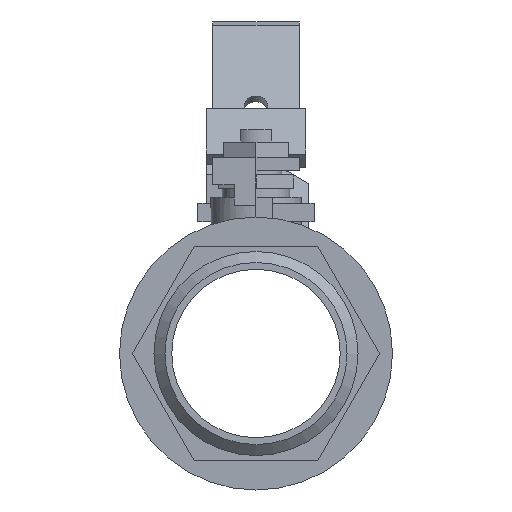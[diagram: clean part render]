
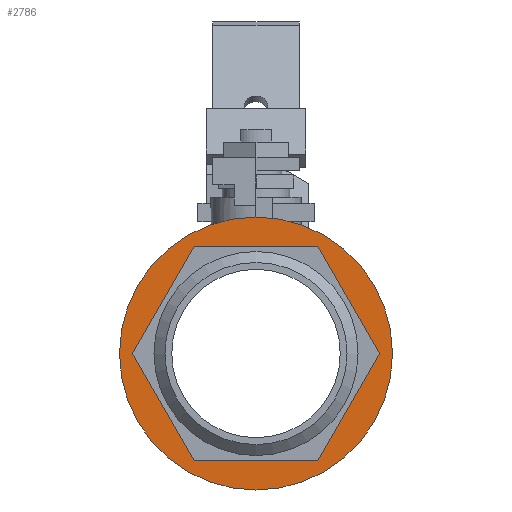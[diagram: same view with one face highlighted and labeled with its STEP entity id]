
A CAD part, left-side view. The second image highlights one B-rep face of the part: STEP entity #2786.
In plain terms, the highlighted planar face has unit normal (-1, 0, 0).
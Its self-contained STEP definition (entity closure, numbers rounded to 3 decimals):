
#2718 = CYLINDRICAL_SURFACE('',#2719,1.727);
#2719 = AXIS2_PLACEMENT_3D('',#2720,#2721,#2722);
#2720 = CARTESIAN_POINT('',(2.519,0.,
    0.));
#2721 = DIRECTION('',(1.,0.,0.));
#2722 = DIRECTION('',(0.,-1.,0.));
#2738 = VERTEX_POINT('',#2739);
#2739 = CARTESIAN_POINT('',(2.519,-1.727,0.));
#2759 = EDGE_CURVE('',#2738,#2738,#2760,.T.);
#2760 = SURFACE_CURVE('',#2761,(#2766,#2773),.PCURVE_S1.);
#2761 = CIRCLE('',#2762,1.727);
#2762 = AXIS2_PLACEMENT_3D('',#2763,#2764,#2765);
#2763 = CARTESIAN_POINT('',(2.519,0.,
    0.));
#2764 = DIRECTION('',(-1.,0.,0.));
#2765 = DIRECTION('',(0.,-1.,0.));
#2766 = PCURVE('',#2718,#2767);
#2767 = DEFINITIONAL_REPRESENTATION('',(#2768),#2772);
#2768 = LINE('',#2769,#2770);
#2769 = CARTESIAN_POINT('',(6.283,0.));
#2770 = VECTOR('',#2771,1.);
#2771 = DIRECTION('',(-1.,0.));
#2772 = ( GEOMETRIC_REPRESENTATION_CONTEXT(2) 
PARAMETRIC_REPRESENTATION_CONTEXT() REPRESENTATION_CONTEXT('2D SPACE',''
  ) );
#2773 = PCURVE('',#2774,#2779);
#2774 = PLANE('',#2775);
#2775 = AXIS2_PLACEMENT_3D('',#2776,#2777,#2778);
#2776 = CARTESIAN_POINT('',(2.519,0.,
    0.));
#2777 = DIRECTION('',(-1.,0.,0.));
#2778 = DIRECTION('',(0.,0.,1.));
#2779 = DEFINITIONAL_REPRESENTATION('',(#2780),#2784);
#2780 = CIRCLE('',#2781,1.727);
#2781 = AXIS2_PLACEMENT_2D('',#2782,#2783);
#2782 = CARTESIAN_POINT('',(0.,0.));
#2783 = DIRECTION('',(0.,-1.));
#2784 = ( GEOMETRIC_REPRESENTATION_CONTEXT(2) 
PARAMETRIC_REPRESENTATION_CONTEXT() REPRESENTATION_CONTEXT('2D SPACE',''
  ) );
#2786 = ADVANCED_FACE('',(#2787,#2957),#2774,.T.);
#2787 = FACE_BOUND('',#2788,.T.);
#2788 = EDGE_LOOP('',(#2789,#2819,#2847,#2875,#2903,#2931));
#2789 = ORIENTED_EDGE('',*,*,#2790,.T.);
#2790 = EDGE_CURVE('',#2791,#2793,#2795,.T.);
#2791 = VERTEX_POINT('',#2792);
#2792 = CARTESIAN_POINT('',(2.519,-0.782,1.355));
#2793 = VERTEX_POINT('',#2794);
#2794 = CARTESIAN_POINT('',(2.519,-1.565,0.));
#2795 = SURFACE_CURVE('',#2796,(#2800,#2807),.PCURVE_S1.);
#2796 = LINE('',#2797,#2798);
#2797 = CARTESIAN_POINT('',(2.519,-1.173,0.678));
#2798 = VECTOR('',#2799,1.);
#2799 = DIRECTION('',(0.,-0.5,-0.866));
#2800 = PCURVE('',#2774,#2801);
#2801 = DEFINITIONAL_REPRESENTATION('',(#2802),#2806);
#2802 = LINE('',#2803,#2804);
#2803 = CARTESIAN_POINT('',(0.678,-1.173));
#2804 = VECTOR('',#2805,1.);
#2805 = DIRECTION('',(-0.866,-0.5));
#2806 = ( GEOMETRIC_REPRESENTATION_CONTEXT(2) 
PARAMETRIC_REPRESENTATION_CONTEXT() REPRESENTATION_CONTEXT('2D SPACE',''
  ) );
#2807 = PCURVE('',#2808,#2813);
#2808 = PLANE('',#2809);
#2809 = AXIS2_PLACEMENT_3D('',#2810,#2811,#2812);
#2810 = CARTESIAN_POINT('',(2.049,-1.173,0.678));
#2811 = DIRECTION('',(0.,-0.866,0.5));
#2812 = DIRECTION('',(0.,-0.5,-0.866));
#2813 = DEFINITIONAL_REPRESENTATION('',(#2814),#2818);
#2814 = LINE('',#2815,#2816);
#2815 = CARTESIAN_POINT('',(0.,0.47));
#2816 = VECTOR('',#2817,1.);
#2817 = DIRECTION('',(1.,0.));
#2818 = ( GEOMETRIC_REPRESENTATION_CONTEXT(2) 
PARAMETRIC_REPRESENTATION_CONTEXT() REPRESENTATION_CONTEXT('2D SPACE',''
  ) );
#2819 = ORIENTED_EDGE('',*,*,#2820,.T.);
#2820 = EDGE_CURVE('',#2793,#2821,#2823,.T.);
#2821 = VERTEX_POINT('',#2822);
#2822 = CARTESIAN_POINT('',(2.519,-0.782,-1.355));
#2823 = SURFACE_CURVE('',#2824,(#2828,#2835),.PCURVE_S1.);
#2824 = LINE('',#2825,#2826);
#2825 = CARTESIAN_POINT('',(2.519,-1.173,-0.678));
#2826 = VECTOR('',#2827,1.);
#2827 = DIRECTION('',(0.,0.5,-0.866));
#2828 = PCURVE('',#2774,#2829);
#2829 = DEFINITIONAL_REPRESENTATION('',(#2830),#2834);
#2830 = LINE('',#2831,#2832);
#2831 = CARTESIAN_POINT('',(-0.678,-1.173));
#2832 = VECTOR('',#2833,1.);
#2833 = DIRECTION('',(-0.866,0.5));
#2834 = ( GEOMETRIC_REPRESENTATION_CONTEXT(2) 
PARAMETRIC_REPRESENTATION_CONTEXT() REPRESENTATION_CONTEXT('2D SPACE',''
  ) );
#2835 = PCURVE('',#2836,#2841);
#2836 = PLANE('',#2837);
#2837 = AXIS2_PLACEMENT_3D('',#2838,#2839,#2840);
#2838 = CARTESIAN_POINT('',(2.049,-1.173,-0.678));
#2839 = DIRECTION('',(0.,-0.866,-0.5));
#2840 = DIRECTION('',(0.,0.5,-0.866));
#2841 = DEFINITIONAL_REPRESENTATION('',(#2842),#2846);
#2842 = LINE('',#2843,#2844);
#2843 = CARTESIAN_POINT('',(0.,0.47));
#2844 = VECTOR('',#2845,1.);
#2845 = DIRECTION('',(1.,0.));
#2846 = ( GEOMETRIC_REPRESENTATION_CONTEXT(2) 
PARAMETRIC_REPRESENTATION_CONTEXT() REPRESENTATION_CONTEXT('2D SPACE',''
  ) );
#2847 = ORIENTED_EDGE('',*,*,#2848,.T.);
#2848 = EDGE_CURVE('',#2821,#2849,#2851,.T.);
#2849 = VERTEX_POINT('',#2850);
#2850 = CARTESIAN_POINT('',(2.519,0.782,-1.355));
#2851 = SURFACE_CURVE('',#2852,(#2856,#2863),.PCURVE_S1.);
#2852 = LINE('',#2853,#2854);
#2853 = CARTESIAN_POINT('',(2.519,0.,-1.355));
#2854 = VECTOR('',#2855,1.);
#2855 = DIRECTION('',(0.,1.,0.));
#2856 = PCURVE('',#2774,#2857);
#2857 = DEFINITIONAL_REPRESENTATION('',(#2858),#2862);
#2858 = LINE('',#2859,#2860);
#2859 = CARTESIAN_POINT('',(-1.355,0.));
#2860 = VECTOR('',#2861,1.);
#2861 = DIRECTION('',(0.,1.));
#2862 = ( GEOMETRIC_REPRESENTATION_CONTEXT(2) 
PARAMETRIC_REPRESENTATION_CONTEXT() REPRESENTATION_CONTEXT('2D SPACE',''
  ) );
#2863 = PCURVE('',#2864,#2869);
#2864 = PLANE('',#2865);
#2865 = AXIS2_PLACEMENT_3D('',#2866,#2867,#2868);
#2866 = CARTESIAN_POINT('',(2.049,0.,-1.355));
#2867 = DIRECTION('',(0.,0.,-1.));
#2868 = DIRECTION('',(0.,1.,0.));
#2869 = DEFINITIONAL_REPRESENTATION('',(#2870),#2874);
#2870 = LINE('',#2871,#2872);
#2871 = CARTESIAN_POINT('',(0.,0.47));
#2872 = VECTOR('',#2873,1.);
#2873 = DIRECTION('',(1.,0.));
#2874 = ( GEOMETRIC_REPRESENTATION_CONTEXT(2) 
PARAMETRIC_REPRESENTATION_CONTEXT() REPRESENTATION_CONTEXT('2D SPACE',''
  ) );
#2875 = ORIENTED_EDGE('',*,*,#2876,.T.);
#2876 = EDGE_CURVE('',#2849,#2877,#2879,.T.);
#2877 = VERTEX_POINT('',#2878);
#2878 = CARTESIAN_POINT('',(2.519,1.565,0.));
#2879 = SURFACE_CURVE('',#2880,(#2884,#2891),.PCURVE_S1.);
#2880 = LINE('',#2881,#2882);
#2881 = CARTESIAN_POINT('',(2.519,1.173,-0.678));
#2882 = VECTOR('',#2883,1.);
#2883 = DIRECTION('',(0.,0.5,0.866));
#2884 = PCURVE('',#2774,#2885);
#2885 = DEFINITIONAL_REPRESENTATION('',(#2886),#2890);
#2886 = LINE('',#2887,#2888);
#2887 = CARTESIAN_POINT('',(-0.678,1.173));
#2888 = VECTOR('',#2889,1.);
#2889 = DIRECTION('',(0.866,0.5));
#2890 = ( GEOMETRIC_REPRESENTATION_CONTEXT(2) 
PARAMETRIC_REPRESENTATION_CONTEXT() REPRESENTATION_CONTEXT('2D SPACE',''
  ) );
#2891 = PCURVE('',#2892,#2897);
#2892 = PLANE('',#2893);
#2893 = AXIS2_PLACEMENT_3D('',#2894,#2895,#2896);
#2894 = CARTESIAN_POINT('',(2.049,1.173,-0.678));
#2895 = DIRECTION('',(0.,0.866,-0.5));
#2896 = DIRECTION('',(0.,0.5,0.866));
#2897 = DEFINITIONAL_REPRESENTATION('',(#2898),#2902);
#2898 = LINE('',#2899,#2900);
#2899 = CARTESIAN_POINT('',(0.,0.47));
#2900 = VECTOR('',#2901,1.);
#2901 = DIRECTION('',(1.,0.));
#2902 = ( GEOMETRIC_REPRESENTATION_CONTEXT(2) 
PARAMETRIC_REPRESENTATION_CONTEXT() REPRESENTATION_CONTEXT('2D SPACE',''
  ) );
#2903 = ORIENTED_EDGE('',*,*,#2904,.T.);
#2904 = EDGE_CURVE('',#2877,#2905,#2907,.T.);
#2905 = VERTEX_POINT('',#2906);
#2906 = CARTESIAN_POINT('',(2.519,0.782,1.355));
#2907 = SURFACE_CURVE('',#2908,(#2912,#2919),.PCURVE_S1.);
#2908 = LINE('',#2909,#2910);
#2909 = CARTESIAN_POINT('',(2.519,1.173,0.678));
#2910 = VECTOR('',#2911,1.);
#2911 = DIRECTION('',(0.,-0.5,0.866));
#2912 = PCURVE('',#2774,#2913);
#2913 = DEFINITIONAL_REPRESENTATION('',(#2914),#2918);
#2914 = LINE('',#2915,#2916);
#2915 = CARTESIAN_POINT('',(0.678,1.173));
#2916 = VECTOR('',#2917,1.);
#2917 = DIRECTION('',(0.866,-0.5));
#2918 = ( GEOMETRIC_REPRESENTATION_CONTEXT(2) 
PARAMETRIC_REPRESENTATION_CONTEXT() REPRESENTATION_CONTEXT('2D SPACE',''
  ) );
#2919 = PCURVE('',#2920,#2925);
#2920 = PLANE('',#2921);
#2921 = AXIS2_PLACEMENT_3D('',#2922,#2923,#2924);
#2922 = CARTESIAN_POINT('',(2.049,1.173,0.678));
#2923 = DIRECTION('',(0.,0.866,0.5));
#2924 = DIRECTION('',(0.,-0.5,0.866));
#2925 = DEFINITIONAL_REPRESENTATION('',(#2926),#2930);
#2926 = LINE('',#2927,#2928);
#2927 = CARTESIAN_POINT('',(0.,0.47));
#2928 = VECTOR('',#2929,1.);
#2929 = DIRECTION('',(1.,0.));
#2930 = ( GEOMETRIC_REPRESENTATION_CONTEXT(2) 
PARAMETRIC_REPRESENTATION_CONTEXT() REPRESENTATION_CONTEXT('2D SPACE',''
  ) );
#2931 = ORIENTED_EDGE('',*,*,#2932,.T.);
#2932 = EDGE_CURVE('',#2905,#2791,#2933,.T.);
#2933 = SURFACE_CURVE('',#2934,(#2938,#2945),.PCURVE_S1.);
#2934 = LINE('',#2935,#2936);
#2935 = CARTESIAN_POINT('',(2.519,0.,1.355));
#2936 = VECTOR('',#2937,1.);
#2937 = DIRECTION('',(0.,-1.,0.));
#2938 = PCURVE('',#2774,#2939);
#2939 = DEFINITIONAL_REPRESENTATION('',(#2940),#2944);
#2940 = LINE('',#2941,#2942);
#2941 = CARTESIAN_POINT('',(1.355,0.));
#2942 = VECTOR('',#2943,1.);
#2943 = DIRECTION('',(0.,-1.));
#2944 = ( GEOMETRIC_REPRESENTATION_CONTEXT(2) 
PARAMETRIC_REPRESENTATION_CONTEXT() REPRESENTATION_CONTEXT('2D SPACE',''
  ) );
#2945 = PCURVE('',#2946,#2951);
#2946 = PLANE('',#2947);
#2947 = AXIS2_PLACEMENT_3D('',#2948,#2949,#2950);
#2948 = CARTESIAN_POINT('',(2.049,0.,1.355));
#2949 = DIRECTION('',(0.,0.,1.));
#2950 = DIRECTION('',(0.,-1.,0.));
#2951 = DEFINITIONAL_REPRESENTATION('',(#2952),#2956);
#2952 = LINE('',#2953,#2954);
#2953 = CARTESIAN_POINT('',(0.,0.47));
#2954 = VECTOR('',#2955,1.);
#2955 = DIRECTION('',(1.,0.));
#2956 = ( GEOMETRIC_REPRESENTATION_CONTEXT(2) 
PARAMETRIC_REPRESENTATION_CONTEXT() REPRESENTATION_CONTEXT('2D SPACE',''
  ) );
#2957 = FACE_BOUND('',#2958,.T.);
#2958 = EDGE_LOOP('',(#2959));
#2959 = ORIENTED_EDGE('',*,*,#2759,.T.);
